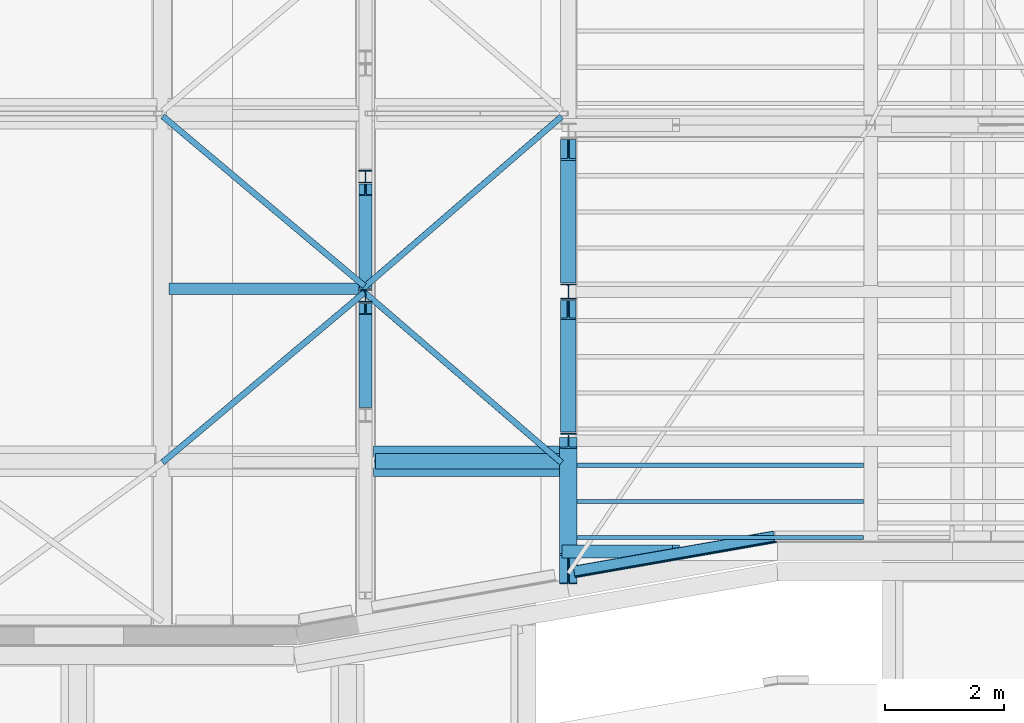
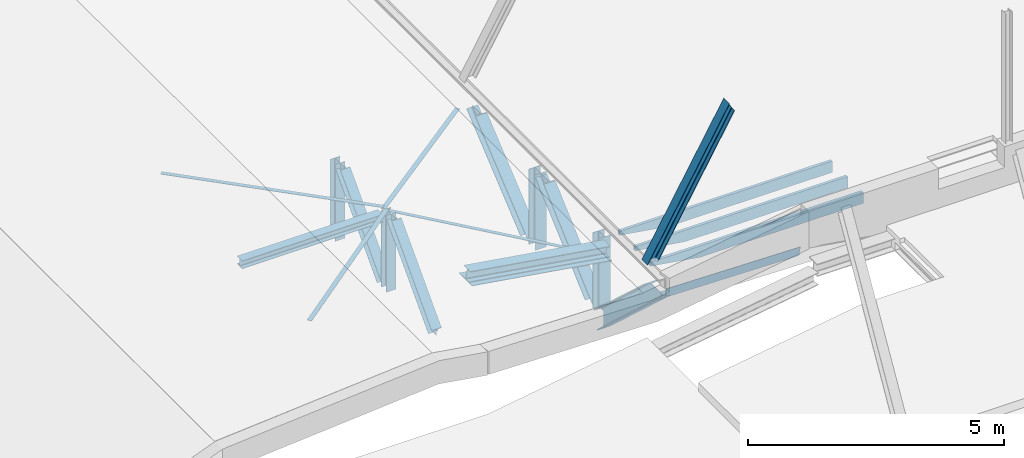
# One storey, part 25 of 50: 20 beams.
"""IFC2X3 building model written with IfcOpenShell, lengths in millimetres."""

from ifc_helpers import new_model, entity, si_unit, converted_unit, derived_unit, direction, frame, frame_2d, origin, place, context, subcontext, project, spatial, polyline, circle_curve, parameter, trimmed, segment, composite_curve, rectangle, i_section, outline, extrude, clip, halfspace, bounded_halfspace, source, transform, mapped, material, material_list, type_object, type_shapes, element, save


model = new_model("IFC2X3")

# Units and contexts
model_context = context("Model", 3, precision=0.01, world=origin(), true_north=direction((6.12303176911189e-17, 1.0)))
body_context = subcontext(model_context, "Body", "Model", "MODEL_VIEW")
ifc_project = project(units=[si_unit("LENGTHUNIT", "METRE", prefix="MILLI"), si_unit("AREAUNIT", "SQUARE_METRE", prefix="MILLI"), si_unit("VOLUMEUNIT", "CUBIC_METRE"), converted_unit("PLANEANGLEUNIT", "DEGREE", entity("IfcRatioMeasure", 0.0174532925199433), si_unit("PLANEANGLEUNIT", "RADIAN"), dimensions=[0, 0, 0, 0, 0, 0, 0]), si_unit("MASSUNIT", "GRAM", prefix="KILO"), derived_unit("MASSDENSITYUNIT", [(si_unit("MASSUNIT", "GRAM", prefix="KILO"), 1), (si_unit("LENGTHUNIT", "METRE"), -3)]), derived_unit("MOMENTOFINERTIAUNIT", [(si_unit("LENGTHUNIT", "METRE"), 4)]), si_unit("TIMEUNIT", "SECOND"), si_unit("FREQUENCYUNIT", "HERTZ"), si_unit("THERMODYNAMICTEMPERATUREUNIT", "DEGREE_CELSIUS"), derived_unit("THERMALTRANSMITTANCEUNIT", [(si_unit("MASSUNIT", "GRAM", prefix="KILO"), 1), (si_unit("THERMODYNAMICTEMPERATUREUNIT", "KELVIN"), -1), (si_unit("TIMEUNIT", "SECOND"), -3)]), derived_unit("VOLUMETRICFLOWRATEUNIT", [(si_unit("LENGTHUNIT", "METRE"), 3), (si_unit("TIMEUNIT", "SECOND"), -1)]), si_unit("ELECTRICCURRENTUNIT", "AMPERE"), si_unit("ELECTRICVOLTAGEUNIT", "VOLT"), si_unit("POWERUNIT", "WATT"), si_unit("FORCEUNIT", "NEWTON", prefix="KILO"), si_unit("ILLUMINANCEUNIT", "LUX"), si_unit("LUMINOUSFLUXUNIT", "LUMEN"), si_unit("LUMINOUSINTENSITYUNIT", "CANDELA"), derived_unit("USERDEFINED", [(si_unit("MASSUNIT", "GRAM", prefix="KILO"), -1), (si_unit("LENGTHUNIT", "METRE"), -2), (si_unit("TIMEUNIT", "SECOND"), 3), (si_unit("LUMINOUSFLUXUNIT", "LUMEN"), 1)]), derived_unit("LINEARVELOCITYUNIT", [(si_unit("LENGTHUNIT", "METRE"), 1), (si_unit("TIMEUNIT", "SECOND"), -1)]), si_unit("PRESSUREUNIT", "PASCAL"), derived_unit("USERDEFINED", [(si_unit("LENGTHUNIT", "METRE"), -2), (si_unit("MASSUNIT", "GRAM", prefix="KILO"), 1), (si_unit("TIMEUNIT", "SECOND"), -2)]), derived_unit("LINEARFORCEUNIT", [(si_unit("MASSUNIT", "GRAM", prefix="KILO"), 1), (si_unit("LENGTHUNIT", "METRE"), 1), (si_unit("TIMEUNIT", "SECOND"), -2), (si_unit("LENGTHUNIT", "METRE"), -1)]), derived_unit("PLANARFORCEUNIT", [(si_unit("MASSUNIT", "GRAM", prefix="KILO"), 1), (si_unit("LENGTHUNIT", "METRE"), 1), (si_unit("TIMEUNIT", "SECOND"), -2), (si_unit("LENGTHUNIT", "METRE"), -2)])], contexts=[model_context])

# Site, building, storey
site_placement = place(None, origin())
site = spatial("IfcSite", under=ifc_project, at=site_placement, Name="Theater aan de Parade", CompositionType="ELEMENT")
building_placement = place(site_placement, origin())
building = spatial("IfcBuilding", under=site, at=building_placement, Name="Theater aan de Parade", CompositionType="ELEMENT")
storey_placement = place(building_placement, frame((0.0, 0.0, 15820.0)))
storey = spatial("IfcBuildingStorey", under=building, at=storey_placement, Name="04 vierde verdieping", CompositionType="ELEMENT", Elevation=15820.0)

# Beams
ifc_material_1 = material(Name="00_PBT_MAT_staal_S355")
beam_type_1 = type_object("IfcBeamType", Name="28_PBT_SF_staal_H-profiel:S355_HE220A", PredefinedType="NOTDEFINED")
beam_1_placement = place(storey_placement, frame((56020.022643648, 22190.0, 1501.58279935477), z_axis=(0.866025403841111, 0.0, -0.499999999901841), x_axis=(0.499999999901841, 0.0, 0.866025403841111)))
element("IfcBeam", 1, at=beam_1_placement, inside=storey, type_object=beam_type_1, material=ifc_material_1, Name="28_PBT_SF_staal_H-profiel:S355_HE220A", ObjectType="28_PBT_SF_staal_H-profiel:S355_HE220A", context=body_context, shape_type="Clipping", body=[
    clip(clip(extrude(outline(composite_curve([segment(polyline([(94.0, -110.0), (105.0, -110.0)]), True, "CONTINUOUS"), segment(polyline([(105.0, -110.0), (105.0, 110.0)]), True, "CONTINUOUS"), segment(polyline([(105.0, 110.0), (94.0, 110.0)]), True, "CONTINUOUS"), segment(polyline([(94.0, 110.0), (94.0, 21.4999999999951)]), True, "CONTINUOUS"), segment(trimmed(circle_curve(frame_2d((76.0, 21.4999999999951), x_axis=(1.0, 0.0)), 17.9999999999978), [parameter(269.999999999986)], [parameter(0.0)], True, "PARAMETER"), False, "CONTINUOUS"), segment(polyline([(76.0, 3.4999999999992), (-76.0, 3.4999999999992)]), True, "CONTINUOUS"), segment(trimmed(circle_curve(frame_2d((-76.0, 21.4999999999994), x_axis=(0.0, -1.0)), 17.9999999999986), [parameter(270.0)], [parameter(0.0)], True, "PARAMETER"), False, "CONTINUOUS"), segment(polyline([(-94.0, 21.4999999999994), (-94.0, 110.0)]), True, "CONTINUOUS"), segment(polyline([(-94.0, 110.0), (-105.0, 110.0)]), True, "CONTINUOUS"), segment(polyline([(-105.0, 110.0), (-105.0, -110.0)]), True, "CONTINUOUS"), segment(polyline([(-105.0, -110.0), (-94.0, -110.0)]), True, "CONTINUOUS"), segment(polyline([(-94.0, -110.0), (-94.0, -21.5000000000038)]), True, "CONTINUOUS"), segment(trimmed(circle_curve(frame_2d((-76.0, -21.5000000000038), x_axis=(-1.0, 0.0)), 17.9999999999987), [parameter(270.0)], [parameter(0.0)], True, "PARAMETER"), False, "CONTINUOUS"), segment(polyline([(-76.0, -3.50000000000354), (76.0, -3.50000000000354)]), True, "CONTINUOUS"), segment(trimmed(circle_curve(frame_2d((76.0, -21.4999999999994), x_axis=(0.0, 1.0)), 17.9999999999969), [parameter(269.999999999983)], [parameter(0.0)], True, "PARAMETER"), False, "CONTINUOUS"), segment(polyline([(94.0, -21.5000000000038), (94.0, -110.0)]), True, "CONTINUOUS")], self_intersect=False)), frame((38.5868595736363, 0.0, 105.0), z_axis=(1.0, 0.0, 0.0), x_axis=(0.0, 0.0, -1.0)), (0.0, 0.0, 1.0), 3698.29839017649), halfspace(frame((175.616197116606, 668.770446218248, 237.341774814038), z_axis=(-0.866025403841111, 0.0, 0.499999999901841), x_axis=(0.0, -1.0, 0.0)), False)), halfspace(frame((3733.05475086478, -9167.79982751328, 6.8279936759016), z_axis=(0.872134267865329, 0.0, 0.489266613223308), x_axis=(0.489266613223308, 0.0, -0.872134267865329)), False)),
])
beam_2_placement = place(storey_placement, frame((52739.1873742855, 28480.2202940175, -650.0), z_axis=(1.0, 0.0, 0.0), x_axis=(0.0, 0.0, 1.0)))
element("IfcBeam", 2, at=beam_2_placement, inside=storey, type_object=beam_type_1, material=ifc_material_1, Name="28_PBT_SF_staal_H-profiel:S355_HE220A", ObjectType="28_PBT_SF_staal_H-profiel:S355_HE220A", context=body_context, shape_type="SweptSolid", body=[
    extrude(i_section(OverallWidth=220.000000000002, OverallDepth=210.000000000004, WebThickness=6.99999999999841, FlangeThickness=10.9999999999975, FilletRadius=17.9999999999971, at=frame_2d((8.66862137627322e-12, -4.33431068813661e-12), x_axis=(1.0, 0.0))), frame((122.700000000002, 0.0, 0.0), z_axis=(1.0, 0.0, 0.0), x_axis=(0.0, 0.0, -1.0)), (0.0, 0.0, 1.0), 1834.6),
])
beam_3_placement = place(storey_placement, frame((52739.1873742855, 26480.2202940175, -650.0), z_axis=(1.0, 0.0, 0.0), x_axis=(0.0, 0.0, 1.0)))
element("IfcBeam", 3, at=beam_3_placement, inside=storey, type_object=beam_type_1, material=ifc_material_1, Name="28_PBT_SF_staal_H-profiel:S355_HE220A", ObjectType="28_PBT_SF_staal_H-profiel:S355_HE220A", context=body_context, shape_type="SweptSolid", body=[
    extrude(i_section(OverallWidth=220.000000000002, OverallDepth=210.000000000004, WebThickness=6.99999999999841, FlangeThickness=10.9999999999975, FilletRadius=17.9999999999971, at=frame_2d((8.66862137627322e-12, 4.33431068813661e-12), x_axis=(1.0, 0.0))), frame((122.700000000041, 0.0, 0.0), z_axis=(1.0, 0.0, 0.0), x_axis=(0.0, 0.0, -1.0)), (0.0, 0.0, 1.0), 1834.6),
])
beam_4_placement = place(storey_placement, frame((52739.1873742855, 24480.2202940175, -650.0), z_axis=(1.0, 0.0, 0.0), x_axis=(0.0, 0.684510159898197, 0.729003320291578)))
element("IfcBeam", 4, at=beam_4_placement, inside=storey, type_object=beam_type_1, material=ifc_material_1, Name="28_PBT_SF_staal_H-profiel:S355_HE220A", ObjectType="28_PBT_SF_staal_H-profiel:S355_HE220A", context=body_context, shape_type="Clipping", body=[
    clip(clip(clip(clip(extrude(i_section(OverallWidth=220.000000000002, OverallDepth=210.0, WebThickness=6.99999999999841, FlangeThickness=10.9999999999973, FilletRadius=17.9999999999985, at=frame_2d((8.66862137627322e-12, -3.06243919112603e-12), x_axis=(1.0, 0.0))), frame((180.334201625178, 0.0, 0.0), z_axis=(1.0, 0.0, 0.0), x_axis=(0.0, 0.0, -1.0)), (0.0, 0.0, 1.0), 2524.67882275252), halfspace(frame((-207.18163615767, 410.565272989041, 130.0), z_axis=(-0.729003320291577, -0.684510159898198, 0.0), x_axis=(0.684510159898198, -0.729003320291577, 0.0)), False)), halfspace(frame((160.432410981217, -20.8262216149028, -130.0), z_axis=(-0.684510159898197, 0.729003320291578, 0.0), x_axis=(0.729003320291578, 0.684510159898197, 0.0)), False)), halfspace(frame((1358.32519080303, -1296.58203212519, 130.0), z_axis=(0.684510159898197, -0.729003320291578, 0.0), x_axis=(0.729003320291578, 0.684510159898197, 0.0)), False)), halfspace(frame((-925.471731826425, 3834.37985161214, -170.0), z_axis=(0.729003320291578, 0.684510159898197, 0.0), x_axis=(0.684510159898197, -0.729003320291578, 0.0)), False)),
])
beam_5_placement = place(storey_placement, frame((52739.1873742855, 26480.2202940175, -650.0), z_axis=(1.0, 0.0, 0.0), x_axis=(0.0, 0.684510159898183, 0.729003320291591)))
element("IfcBeam", 5, at=beam_5_placement, inside=storey, type_object=beam_type_1, material=ifc_material_1, Name="28_PBT_SF_staal_H-profiel:S355_HE220A", ObjectType="28_PBT_SF_staal_H-profiel:S355_HE220A", context=body_context, shape_type="Clipping", body=[
    clip(clip(clip(clip(extrude(i_section(OverallWidth=220.000000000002, OverallDepth=209.999999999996, WebThickness=6.99999999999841, FlangeThickness=10.9999999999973, FilletRadius=17.9999999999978, at=frame_2d((8.66862137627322e-12, -4.64694949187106e-12), x_axis=(1.0, 0.0))), frame((180.33420162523, 0.0, 0.0), z_axis=(1.0, 0.0, 0.0), x_axis=(0.0, 0.0, -1.0)), (0.0, 0.0, 1.0), 2524.67882275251), halfspace(frame((-1576.20195595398, 1868.57191357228, 130.0), z_axis=(-0.729003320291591, -0.684510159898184, 0.0), x_axis=(0.684510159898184, -0.729003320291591, 0.0)), False)), halfspace(frame((160.432410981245, -20.826221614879, -130.0), z_axis=(-0.684510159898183, 0.729003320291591, 0.0), x_axis=(0.729003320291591, 0.684510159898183, 0.0)), False)), halfspace(frame((1358.32519080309, -1296.58203212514, 130.0), z_axis=(0.684510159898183, -0.729003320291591, 0.0), x_axis=(0.729003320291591, 0.684510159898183, 0.0)), False)), halfspace(frame((-2294.49205162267, 5292.3864921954, -170.0), z_axis=(0.729003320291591, 0.684510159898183, 0.0), x_axis=(0.684510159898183, -0.729003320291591, 0.0)), False)),
])
beam_type_2 = type_object("IfcBeamType", Name="28_PBT_SF_staal_L-profiel:S355_L200x200x20", PredefinedType="NOTDEFINED")
beam_6_placement = place(storey_placement, frame((56289.8019143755, 21809.077308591, 1155.67119094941), z_axis=(0.15184123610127, 0.026572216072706, 0.988047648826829), x_axis=(0.973257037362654, 0.170319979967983, -0.154148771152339)))
element("IfcBeam", 6, at=beam_6_placement, inside=storey, type_object=beam_type_2, material=ifc_material_1, Name="28_PBT_SF_staal_L-profiel:S355_L200x200x20", ObjectType="28_PBT_SF_staal_L-profiel:S355_L200x200x20", context=body_context, shape_type="SweptSolid", body=[
    extrude(outline(composite_curve([segment(polyline([(-37.5555555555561, 55.5555555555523), (115.444444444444, 55.5555555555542)]), True, "CONTINUOUS"), segment(trimmed(circle_curve(frame_2d((115.444444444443, 64.5555555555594), x_axis=(0.0, -1.0)), 9.00000000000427), [parameter(0.0)], [parameter(89.9999999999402)], True, "PARAMETER"), True, "CONTINUOUS"), segment(polyline([(124.444444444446, 64.5555555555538), (124.444444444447, 75.5555555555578)]), True, "CONTINUOUS"), segment(polyline([(124.444444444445, 75.5555555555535), (-75.5555555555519, 75.5555555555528)]), True, "CONTINUOUS"), segment(polyline([(-75.555555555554, 75.5555555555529), (-75.5555555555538, -124.444444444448)]), True, "CONTINUOUS"), segment(polyline([(-75.5555555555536, -124.444444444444), (-64.5555555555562, -124.444444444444)]), True, "CONTINUOUS"), segment(trimmed(circle_curve(frame_2d((-64.5555555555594, -115.444444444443), x_axis=(0.0, -1.0)), 9.0000000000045), [parameter(0.0)], [parameter(89.9999999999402)], True, "PARAMETER"), True, "CONTINUOUS"), segment(polyline([(-55.5555555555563, -115.444444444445), (-55.5555555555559, 37.5555555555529)]), True, "CONTINUOUS"), segment(trimmed(circle_curve(frame_2d((-37.5555555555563, 37.5555555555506), x_axis=(-1.0, 0.0)), 17.9999999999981), [parameter(269.999999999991)], [parameter(0.0)], True, "PARAMETER"), False, "CONTINUOUS")], self_intersect=False)), frame((0.0, 24.1269987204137, -198.866148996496), z_axis=(1.0, 0.0, 0.0), x_axis=(0.0, -0.0269662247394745, 0.999636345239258)), (0.0, 0.0, 1.0), 3450.69727884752),
])
beam_type_3 = type_object("IfcBeamType", Name="28_PBT_SF_staal_H-profiel:S355_HE200A", PredefinedType="NOTDEFINED")
beam_7_placement = place(storey_placement, frame((52629.1873742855, 26600.0, 0.0), z_axis=(0.0, 0.0, 1.0), x_axis=(-1.0, 0.0, 0.0)))
element("IfcBeam", 7, at=beam_7_placement, inside=storey, type_object=beam_type_3, material=ifc_material_1, Name="28_PBT_SF_staal_H-profiel:S355_HE200A", ObjectType="28_PBT_SF_staal_H-profiel:S355_HE200A", context=body_context, shape_type="SweptSolid", body=[
    extrude(i_section(OverallWidth=199.999999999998, OverallDepth=190.0, WebThickness=6.50000000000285, FlangeThickness=9.99999999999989, FilletRadius=18.0000000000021, at=frame_2d((2.16715534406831e-12, -2.16715534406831e-12), x_axis=(0.0, 1.0))), frame((0.0, 0.0, 1165.0), z_axis=(1.0, 0.0, 0.0), x_axis=(0.0, 0.0, -1.0)), (0.0, 0.0, 1.0), 3184.18737428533),
])
beam_type_4 = type_object("IfcBeamType", Name="28_PBT_SF_staal_H-profiel:S355_HE260B", PredefinedType="NOTDEFINED")
beam_8_placement = place(storey_placement, frame((56143.3747485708, 24050.0, -960.0), z_axis=(0.0, -0.668964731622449, 0.743294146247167), x_axis=(0.0, 0.743294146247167, 0.668964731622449)))
element("IfcBeam", 8, at=beam_8_placement, inside=storey, type_object=beam_type_4, material=ifc_material_1, Name="28_PBT_SF_staal_H-profiel:S355_HE260B", ObjectType="28_PBT_SF_staal_H-profiel:S355_HE260B", context=body_context, shape_type="Clipping", body=[
    clip(clip(clip(clip(extrude(outline(composite_curve([segment(polyline([(112.5, -130.0), (130.0, -130.0)]), True, "CONTINUOUS"), segment(polyline([(130.0, -130.0), (130.0, 130.0)]), True, "CONTINUOUS"), segment(polyline([(130.0, 130.0), (112.5, 130.0)]), True, "CONTINUOUS"), segment(polyline([(112.5, 130.0), (112.5, 29.0)]), True, "CONTINUOUS"), segment(trimmed(circle_curve(frame_2d((88.4999999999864, 29.0), x_axis=(1.0, 0.0)), 24.0000000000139), [parameter(270.000000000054)], [parameter(0.0)], True, "PARAMETER"), False, "CONTINUOUS"), segment(polyline([(88.4999999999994, 5.0), (-88.4999999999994, 5.0)]), True, "CONTINUOUS"), segment(trimmed(circle_curve(frame_2d((-88.4999999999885, 29.0), x_axis=(0.0, -1.0)), 24.0000000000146), [parameter(270.000000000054)], [parameter(0.0)], True, "PARAMETER"), False, "CONTINUOUS"), segment(polyline([(-112.5, 29.0), (-112.499999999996, 130.0)]), True, "CONTINUOUS"), segment(polyline([(-112.499999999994, 130.0), (-130.0, 130.0)]), True, "CONTINUOUS"), segment(polyline([(-130.0, 130.0), (-130.0, -130.0)]), True, "CONTINUOUS"), segment(polyline([(-130.0, -130.0), (-112.5, -130.0)]), True, "CONTINUOUS"), segment(polyline([(-112.500000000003, -130.0), (-112.500000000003, -29.0)]), True, "CONTINUOUS"), segment(trimmed(circle_curve(frame_2d((-88.4999999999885, -29.0), x_axis=(-1.0, 0.0)), 24.0000000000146), [parameter(270.000000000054)], [parameter(0.0)], True, "PARAMETER"), False, "CONTINUOUS"), segment(polyline([(-88.4999999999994, -5.0), (88.4999999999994, -5.0)]), True, "CONTINUOUS"), segment(trimmed(circle_curve(frame_2d((88.4999999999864, -29.0), x_axis=(0.0, 1.0)), 24.0000000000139), [parameter(270.000000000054)], [parameter(0.0)], True, "PARAMETER"), False, "CONTINUOUS"), segment(polyline([(112.5, -29.0), (112.5, -130.0)]), True, "CONTINUOUS")], self_intersect=False)), frame((254.949892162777, 0.0, 0.0), z_axis=(1.0, 0.0, 0.0), x_axis=(0.0, 0.0, -1.0)), (0.0, 0.0, 1.0), 2836.78210915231), halfspace(frame((1879.36721819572, -150.0, -1432.17916098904), z_axis=(0.743294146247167, 0.0, -0.668964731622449), x_axis=(0.668964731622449, 0.0, 0.743294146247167)), False)), halfspace(frame((-538.345982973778, 170.0, 3181.96300611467), z_axis=(0.668964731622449, 0.0, 0.743294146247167), x_axis=(0.743294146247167, 0.0, -0.668964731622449)), False)), bounded_halfspace(frame((91.3827645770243, -170.0, 213.735240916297), z_axis=(-0.668964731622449, 0.0, -0.743294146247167), x_axis=(0.743294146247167, 0.0, -0.668964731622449)), False, frame((254.949892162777, 0.0, 0.0), z_axis=(1.0, 0.0, 0.0), x_axis=(0.0, 0.0, -1.0)), polyline([(112.499999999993, 130.0), (130.0, 130.0), (130.0, -130.0), (112.499999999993, -130.0), (112.499999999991, -29.0), (88.4999999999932, -5.0), (-66.52482608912, -5.0), (-66.52482608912, 5.0), (88.4999999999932, 5.0), (112.499999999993, 29.0), (112.499999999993, 130.0)]))), bounded_halfspace(frame((236.687154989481, 150.0, 46.232895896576), z_axis=(-0.743294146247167, 0.0, 0.668964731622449), x_axis=(0.668964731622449, 0.0, 0.743294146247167)), False, frame((254.949892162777, 0.0, 0.0), z_axis=(1.0, 0.0, 0.0), x_axis=(0.0, 0.0, -1.0)), polyline([(-88.5000000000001, 5.0), (-66.52482608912, 5.0), (-66.52482608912, -5.0), (-88.5000000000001, -5.0), (-112.500000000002, -29.0), (-112.500000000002, -130.0), (-130.0, -130.0), (-130.0, 130.0), (-112.499999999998, 130.0), (-112.500000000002, 29.0), (-88.5000000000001, 5.0)]))),
])
beam_9_placement = place(storey_placement, frame((56143.3747485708, 26550.0, -960.0), z_axis=(0.0, -0.640184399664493, 0.768221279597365), x_axis=(0.0, 0.768221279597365, 0.640184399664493)))
element("IfcBeam", 9, at=beam_9_placement, inside=storey, type_object=beam_type_4, material=ifc_material_1, Name="28_PBT_SF_staal_H-profiel:S355_HE260B", ObjectType="28_PBT_SF_staal_H-profiel:S355_HE260B", context=body_context, shape_type="Clipping", body=[
    clip(clip(clip(clip(extrude(outline(composite_curve([segment(polyline([(112.499999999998, -130.0), (130.0, -130.0)]), True, "CONTINUOUS"), segment(polyline([(130.0, -130.0), (130.0, 130.0)]), True, "CONTINUOUS"), segment(polyline([(130.0, 130.0), (112.5, 130.0)]), True, "CONTINUOUS"), segment(polyline([(112.499999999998, 130.0), (112.499999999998, 29.0)]), True, "CONTINUOUS"), segment(trimmed(circle_curve(frame_2d((88.4999999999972, 29.0), x_axis=(1.0, 0.0)), 24.0000000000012), [parameter(270.000000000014)], [parameter(0.0)], True, "PARAMETER"), False, "CONTINUOUS"), segment(polyline([(88.5000000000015, 5.0), (-88.4999999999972, 5.0)]), True, "CONTINUOUS"), segment(trimmed(circle_curve(frame_2d((-88.4999999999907, 29.0), x_axis=(0.0, -1.0)), 24.0000000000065), [parameter(270.000000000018)], [parameter(0.0)], True, "PARAMETER"), False, "CONTINUOUS"), segment(polyline([(-112.5, 29.0), (-112.499999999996, 130.0)]), True, "CONTINUOUS"), segment(polyline([(-112.5, 130.0), (-130.0, 130.0)]), True, "CONTINUOUS"), segment(polyline([(-130.0, 130.0), (-130.0, -130.0)]), True, "CONTINUOUS"), segment(polyline([(-130.0, -130.0), (-112.500000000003, -130.0)]), True, "CONTINUOUS"), segment(polyline([(-112.500000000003, -130.0), (-112.500000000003, -29.0)]), True, "CONTINUOUS"), segment(trimmed(circle_curve(frame_2d((-88.4999999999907, -29.0), x_axis=(-1.0, 0.0)), 24.0000000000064), [parameter(270.000000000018)], [parameter(0.0)], True, "PARAMETER"), False, "CONTINUOUS"), segment(polyline([(-88.4999999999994, -5.0), (88.5000000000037, -5.0)]), True, "CONTINUOUS"), segment(trimmed(circle_curve(frame_2d((88.4999999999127, -29.0), x_axis=(0.0, 1.0)), 24.0000000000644), [parameter(270.000000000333)], [parameter(0.0)], True, "PARAMETER"), False, "CONTINUOUS"), segment(polyline([(112.499999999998, -29.0), (112.499999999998, -130.0)]), True, "CONTINUOUS")], self_intersect=False)), frame((252.232653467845, 0.0, 0.0), z_axis=(1.0, 0.0, 0.0), x_axis=(0.0, 0.0, -1.0)), (0.0, 0.0, 1.0), 2994.14243723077), halfspace(frame((-1837.37306489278, -170.0, 1817.52004219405), z_axis=(-0.640184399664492, 0.0, -0.768221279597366), x_axis=(0.768221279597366, 0.0, -0.640184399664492)), False)), halfspace(frame((234.755619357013, 150.0, 55.209502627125), z_axis=(-0.768221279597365, 0.0, 0.640184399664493), x_axis=(0.640184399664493, 0.0, 0.768221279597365)), False)), halfspace(frame((2086.16890318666, -150.0, -1487.6349005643), z_axis=(0.768221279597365, 0.0, -0.640184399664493), x_axis=(0.640184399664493, 0.0, 0.768221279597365)), False)), halfspace(frame((-2579.63874566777, 170.0, 4759.62405475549), z_axis=(0.640184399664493, 0.0, 0.768221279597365), x_axis=(0.768221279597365, 0.0, -0.640184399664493)), False)),
])
ifc_material_2 = material(Name="00_PBT_MAT_staal")
beam_type_5 = type_object("IfcBeamType", Name="28_PBT_SF_staal_strip:strip 100x10", PredefinedType="NOTDEFINED")
beam_10_placement = place(storey_placement, frame((52733.8997913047, 26582.4398118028, 1718.87075855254), z_axis=(0.0899792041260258, 0.0778065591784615, 0.99289973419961), x_axis=(0.751047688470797, 0.649443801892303, -0.118954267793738)))
element("IfcBeam", 10, at=beam_10_placement, inside=storey, type_object=beam_type_5, material=ifc_material_2, Name="28_PBT_SF_staal_strip:strip 100x10", ObjectType="28_PBT_SF_staal_strip:strip 100x10", context=body_context, shape_type="SweptSolid", body=[
    extrude(rectangle(XDim=10.0000000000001, YDim=99.9999999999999, at=frame_2d((-4.64339677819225e-12, -1.46149758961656e-12), x_axis=(0.0, 1.0))), frame((0.0, 41.4403721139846, -402.874292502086), z_axis=(1.0, 0.0, 0.0), x_axis=(0.0, -0.994751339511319, -0.102321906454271)), (0.0, 0.0, 1.0), 4473.55954864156),
])
beam_11_placement = place(storey_placement, frame((52733.8997913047, 26582.4398118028, 1718.87075855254), z_axis=(0.0901266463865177, -0.0777838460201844, 0.992888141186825), x_axis=(0.751658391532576, -0.648719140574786, -0.119050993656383)))
element("IfcBeam", 11, at=beam_11_placement, inside=storey, type_object=beam_type_5, material=ifc_material_2, Name="28_PBT_SF_staal_strip:strip 100x10", ObjectType="28_PBT_SF_staal_strip:strip 100x10", context=body_context, shape_type="SweptSolid", body=[
    extrude(rectangle(XDim=10.0000000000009, YDim=99.9999999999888, at=frame_2d((4.53326265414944e-12, -3.91242593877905e-13), x_axis=(0.0, 1.0))), frame((0.0, -41.3946155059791, -402.878996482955), z_axis=(1.0, 0.0, 0.0), x_axis=(0.0, -0.994762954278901, 0.102208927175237)), (0.0, 0.0, 1.0), 4469.92489685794),
])
beam_12_placement = place(storey_placement, frame((49341.9024959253, 29491.7653330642, 1589.46746619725), z_axis=(0.0450844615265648, -0.0379427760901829, 0.99826235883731), x_axis=(0.76377472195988, -0.642787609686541, -0.0589259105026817)))
element("IfcBeam", 12, at=beam_12_placement, inside=storey, type_object=beam_type_5, material=ifc_material_2, Name="28_PBT_SF_staal_strip:strip 100x10", ObjectType="28_PBT_SF_staal_strip:strip 100x10", context=body_context, shape_type="SweptSolid", body=[
    extrude(rectangle(XDim=9.99999999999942, YDim=99.9999999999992, at=frame_2d((4.43378667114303e-12, 3.33066907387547e-13), x_axis=(0.0, 1.0))), frame((0.0, -0.247653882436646, -4.99386298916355), z_axis=(1.0, 0.0, 0.0), x_axis=(0.0, -0.998772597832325, 0.0495307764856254)), (0.0, 0.0, 1.0), 4430.68427961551),
])
beam_13_placement = place(storey_placement, frame((49337.4466614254, 23686.4639742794, 1589.81123785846), z_axis=(0.045084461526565, 0.0379427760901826, 0.99826235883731), x_axis=(0.763774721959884, 0.642787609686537, -0.0589259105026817)))
element("IfcBeam", 13, at=beam_13_placement, inside=storey, type_object=beam_type_5, material=ifc_material_2, Name="28_PBT_SF_staal_strip:strip 100x10", ObjectType="28_PBT_SF_staal_strip:strip 100x10", context=body_context, shape_type="SweptSolid", body=[
    extrude(rectangle(XDim=9.99999999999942, YDim=100.000000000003, at=frame_2d((1.65911728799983e-12, 0.0), x_axis=(0.0, 1.0))), frame((0.0, 0.247653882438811, -4.99386298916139), z_axis=(1.0, 0.0, 0.0), x_axis=(0.0, -0.998772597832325, -0.0495307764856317)), (0.0, 0.0, 1.0), 4436.51824396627),
])
ifc_material_3 = material(Name="00_PBT_MAT_Lucht")
ifc_material_list = material_list([ifc_material_1, ifc_material_3])
beam_type_6 = type_object("IfcBeamType", Name="28_PBT_SF_staal_H-profiel_met_onderplaat (void):S355_HE260A + onderplaat d=12", PredefinedType="BEAM", material=ifc_material_list)
shared_shape = source(origin(), body_context, "Body", "SweptSolid", [
    extrude(rectangle(XDim=12.0, YDim=510.0, at=frame_2d((3.5527136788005e-13, -1.4210854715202e-14), x_axis=(1.0, 0.0))), frame((-1600.0, 0.0, -131.0), z_axis=(1.0, 0.0, 0.0), x_axis=(0.0, 0.0, -1.0)), (0.0, 0.0, 1.0), 3200.0),
    extrude(i_section(OverallWidth=260.0, OverallDepth=250.0, WebThickness=7.49999999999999, FlangeThickness=12.4999999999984, FilletRadius=24.0, at=frame_2d((-4.12114786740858e-13, 0.0), x_axis=(0.0, 1.0))), frame((-1600.0, 0.0, 0.0), z_axis=(1.0, 0.0, 0.0), x_axis=(0.0, 0.0, -1.0)), (0.0, 0.0, 1.0), 3200.0),
])
type_shapes(beam_type_6, [shared_shape])
beam_14_placement = place(storey_placement, frame((54474.346388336, 23708.9366326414, 1190.09481692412), z_axis=(0.156434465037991, 0.0, 0.987688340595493), x_axis=(0.987688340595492, 0.0, -0.156434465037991)))
element("IfcBeam", 14, at=beam_14_placement, inside=storey, type_object=beam_type_6, material=ifc_material_1, Name="28_PBT_SF_staal_H-profiel_met_onderplaat (void):S355_HE260A + onderplaat d=12", ObjectType="28_PBT_SF_staal_H-profiel_met_onderplaat (void):S355_HE260A + onderplaat d=12", context=body_context, shape_type="MappedRepresentation", body=[
    mapped(shared_shape, transform((0.0, 0.0, 0.0), scale=1.0)),
])
beam_type_7 = type_object("IfcBeamType", Name="28_PBT_SF_staal_H-profiel:S355_HE400B", PredefinedType="NOTDEFINED")
beam_15_placement = place(storey_placement, frame((56143.3747485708, 21600.0, 1290.0), z_axis=(0.0, 0.676404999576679, 0.736529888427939), x_axis=(0.0, 0.736529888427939, -0.676404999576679)))
element("IfcBeam", 15, at=beam_15_placement, inside=storey, type_object=beam_type_7, material=ifc_material_1, Name="28_PBT_SF_staal_H-profiel:S355_HE400B", ObjectType="28_PBT_SF_staal_H-profiel:S355_HE400B", context=body_context, shape_type="Clipping", body=[
    clip(clip(clip(extrude(i_section(OverallWidth=300.000000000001, OverallDepth=400.000000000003, WebThickness=13.4999999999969, FlangeThickness=23.9999999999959, FilletRadius=26.9999999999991, at=frame_2d((-8.65441052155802e-12, -7.95807864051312e-13), x_axis=(1.0, 0.0))), frame((244.836563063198, 0.0, 0.0), z_axis=(1.0, 0.0, 0.0), x_axis=(0.0, 1.0, 0.0)), (0.0, 0.0, 1.0), 3161.90556267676), halfspace(frame((107.702436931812, 170.0, -233.730546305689), z_axis=(-0.676404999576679, 0.0, 0.736529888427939), x_axis=(0.736529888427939, 0.0, 0.676404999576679)), False)), bounded_halfspace(frame((3122.31860474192, -170.0, 111.267602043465), z_axis=(0.67640499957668, 0.0, -0.736529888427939), x_axis=(0.736529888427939, 0.0, 0.67640499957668)), False, frame((244.836563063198, 0.0, 0.0), z_axis=(1.0, 0.0, 0.0), x_axis=(0.0, 1.0, 0.0)), polyline([(-6.7500000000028, 111.267602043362), (6.74999999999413, 111.267602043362), (6.74999999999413, 149.0), (33.7499999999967, 176.0), (150.0, 176.0), (150.0, 200.0), (-150.0, 200.0), (-150.0, 176.0), (-33.7500000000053, 176.0), (-6.7500000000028, 149.0), (-6.7500000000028, 111.267602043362)]))), bounded_halfspace(frame((3271.12770464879, 0.0, -50.7689734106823), z_axis=(0.736529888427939, 0.0, 0.67640499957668), x_axis=(-0.67640499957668, 0.0, 0.736529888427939)), False, frame((244.836563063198, 0.0, 0.0), z_axis=(1.0, 0.0, 0.0), x_axis=(0.0, 1.0, 0.0)), polyline([(6.74999999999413, 111.267602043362), (-6.7500000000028, 111.267602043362), (-6.7500000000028, -149.0), (-33.7500000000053, -176.0), (-150.0, -176.0), (-150.0, -198.43800971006), (150.0, -198.43800971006), (150.0, -176.0), (33.7499999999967, -176.0), (6.74999999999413, -149.0), (6.74999999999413, 111.267602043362)]))),
])
ifc_material_4 = material(Name="00_PBT_MAT_hout")
beam_type_8 = type_object("IfcBeamType", Name="28_PBT_SF_rechthoekig hout:70x270", PredefinedType="NOTDEFINED")
for number, where, z_axis, x_axis, name in (
    (16, (61216.0560363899, 22425.0, 0.0), (0.0, 0.0, 1.0), (-1.0, 0.0, 0.0), "28_PBT_SF_rechthoekig hout:70x270"),
    (17, (61216.0560363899, 23032.0, 0.0), (0.0, 0.0, 1.0), (-1.0, 0.0, 0.0), "28_PBT_SF_rechthoekig hout:70x270"),
    (18, (61216.0560363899, 23639.0, 0.0), (0.0, 0.0, 1.0), (-1.0, 0.0, 0.0), "28_PBT_SF_rechthoekig hout:70x270"),
):
    element("IfcBeam", number, at=place(storey_placement, frame(where, z_axis=z_axis, x_axis=x_axis)), inside=storey, type_object=beam_type_8, material=ifc_material_4, Name=name, ObjectType="28_PBT_SF_rechthoekig hout:70x270", context=body_context, shape_type="Clipping", body=[
        clip(extrude(rectangle(XDim=270.000000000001, YDim=70.0000000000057, at=frame_2d((-2.16715534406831e-12, 0.0), x_axis=(0.0, 1.0))), frame((122.699999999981, 0.0, 1187.0), z_axis=(1.0, 0.0, 0.0), x_axis=(0.0, 1.0, 0.0)), (0.0, 0.0, 1.0), 4799.9812878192), halfspace(frame((2971.92563283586, 4922.68128781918, 920.0), z_axis=(0.156434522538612, 0.0, -0.987688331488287), x_axis=(0.0, -1.0, 0.0)), False)),
    ])
beam_type_9 = type_object("IfcBeamType", Name="28_PBT_SF_staal_H-profiel:S355_HE260A", PredefinedType="NOTDEFINED")
beam_16_placement = place(storey_placement, frame((56143.3747485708, 26550.0, -960.0), z_axis=(1.0, 0.0, 0.0), x_axis=(0.0, 0.0, 1.0)))
element("IfcBeam", 19, at=beam_16_placement, inside=storey, type_object=beam_type_9, material=ifc_material_1, Name="28_PBT_SF_staal_H-profiel:S355_HE260A", ObjectType="28_PBT_SF_staal_H-profiel:S355_HE260A", context=body_context, shape_type="SweptSolid", body=[
    extrude(i_section(OverallWidth=260.000000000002, OverallDepth=249.999999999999, WebThickness=7.49999999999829, FlangeThickness=12.4999999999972, FilletRadius=24.0000000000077, at=frame_2d((4.32009983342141e-12, 2.16715534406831e-12), x_axis=(1.0, 0.0))), frame((212.700000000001, 0.0, 0.0), z_axis=(1.0, 0.0, 0.0), x_axis=(0.0, 0.0, -1.0)), (0.0, 0.0, 1.0), 1799.6),
])
beam_17_placement = place(storey_placement, frame((56143.3747485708, 24050.0, -960.0), z_axis=(1.0, 0.0, 0.0), x_axis=(0.0, 0.0, 1.0)))
element("IfcBeam", 20, at=beam_17_placement, inside=storey, type_object=beam_type_9, material=ifc_material_1, Name="28_PBT_SF_staal_H-profiel:S355_HE260A", ObjectType="28_PBT_SF_staal_H-profiel:S355_HE260A", context=body_context, shape_type="Clipping", body=[
    clip(extrude(i_section(OverallWidth=260.000000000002, OverallDepth=249.999999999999, WebThickness=7.49999999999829, FlangeThickness=12.4999999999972, FilletRadius=24.0000000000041, at=frame_2d((4.32009983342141e-12, -2.16715534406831e-12), x_axis=(1.0, 0.0))), frame((212.700000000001, 0.0, 0.0), z_axis=(1.0, 0.0, 0.0), x_axis=(0.0, 0.0, -1.0)), (0.0, 0.0, 1.0), 1799.6), halfspace(frame((2259.95600011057, 2135.59205138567, 170.0), z_axis=(-0.736529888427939, 0.676404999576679, 0.0), x_axis=(-0.676404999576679, -0.736529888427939, 0.0)), False)),
])

save(model, "model.ifc")
